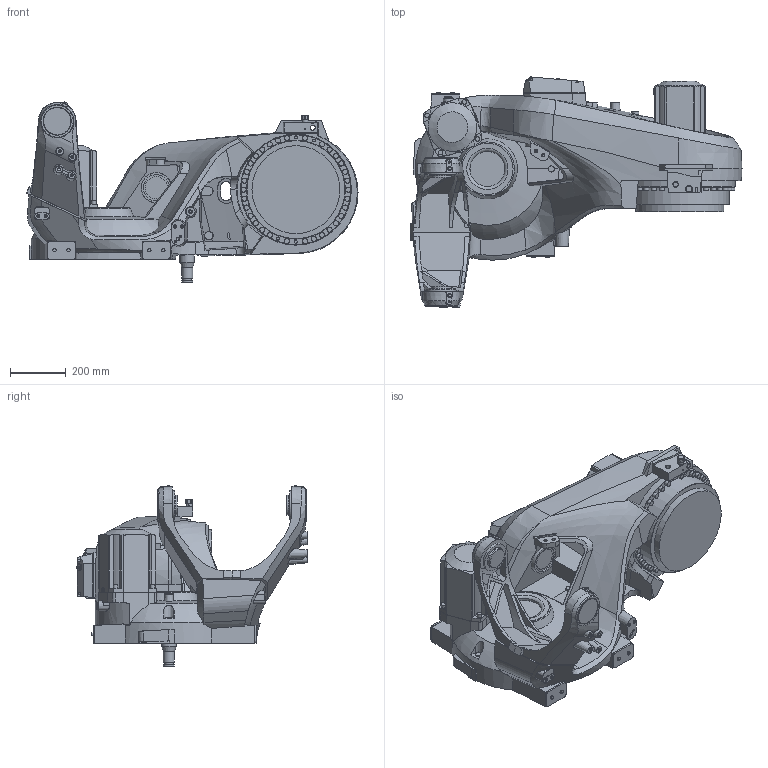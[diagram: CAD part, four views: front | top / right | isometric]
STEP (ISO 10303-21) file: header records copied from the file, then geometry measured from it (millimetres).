
FILE_DESCRIPTION (( 'STEP AP203' ), '1' );
FILE_NAME ('IRB6730S_All_OC_00_LINK01_CAD.step', '2025-12-19T13:21:24', ( '' ), ( '' ), 'SwSTEP 2.0', 'SolidWorks 2024', '' );
FILE_SCHEMA (( 'CONFIG_CONTROL_DESIGN' ));
Products named in the file (1): IRB6730S_All_OC_00_LINK01_CAD
Bounding box: 1189.82 x 825.3 x 646.66 mm (x, y, z)
Volume: 98687335.7 mm3; surface area: 3866019.3 mm2
Topology: 5 solids, 5 shells, 1693 faces, 4491 edges, 2937 vertices
Faces by surface type: plane 836, cone 299, cylinder 275, bspline 232, torus 48, sphere 3
Full cylindrical faces by diameter (mm): 4.8 x1, 5 x18, 8 x2, 8.5 x14, 9.5 x4, 10 x3, 10.2 x6, 12 x12, 13 x2, 14 x20, 16.27 x8, 17 x6, 17.5 x1, 17.7 x1, 17.9 x1, 18 x2, 18.27 x32, 19.5 x1, 19.7 x2, 20 x3, 22 x2, 23 x1, 25 x1, 27 x3, 30 x1, 40 x2, 53 x1, 59.6 x1, 59.75 x1, 60 x1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
Entity records: 104430 total; most frequent: CARTESIAN_POINT 67840, ORIENTED_EDGE 7860, DIRECTION 6483, EDGE_CURVE 3930, VERTEX_POINT 2750, AXIS2_PLACEMENT_3D 2441, EDGE_LOOP 2216, FACE_OUTER_BOUND 1898
